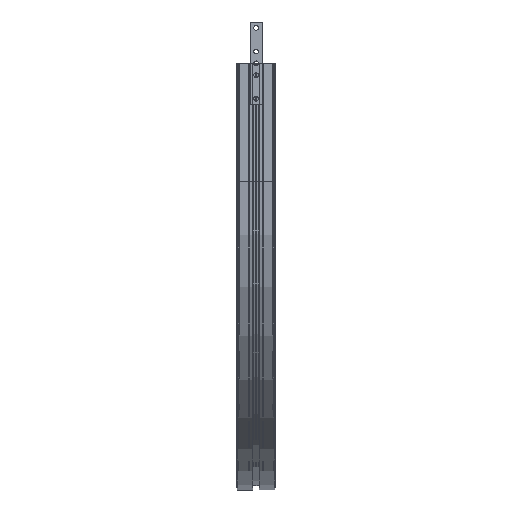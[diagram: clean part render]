
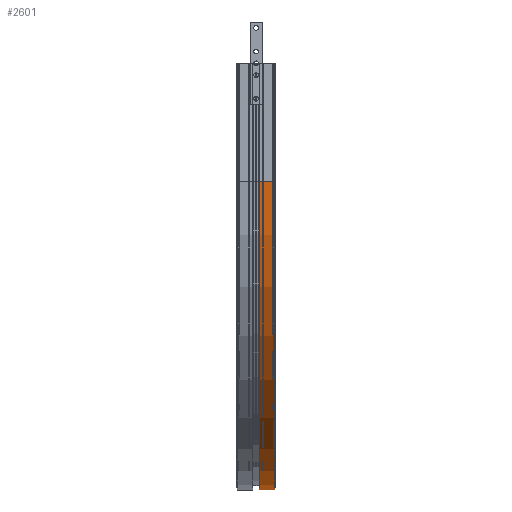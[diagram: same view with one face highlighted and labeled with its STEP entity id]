
A CAD part, left-side view. The second image highlights one B-rep face of the part: STEP entity #2601.
In plain terms, the highlighted cylindrical face has radius 522.5 mm (diameter 1045 mm), a partial arc.
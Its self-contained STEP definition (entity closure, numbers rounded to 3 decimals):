
#2601 = ADVANCED_FACE ( 'NONE', ( #10759 ), #10769, .T. ) ;
#3084 = CARTESIAN_POINT ( 'NONE',  ( 500., -32., -722.5 ) ) ;
#3085 = CARTESIAN_POINT ( 'NONE',  ( -22.5, -32., -200. ) ) ;
#3089 = CARTESIAN_POINT ( 'NONE',  ( 500., -5.5, -722.5 ) ) ;
#3090 = CARTESIAN_POINT ( 'NONE',  ( -22.5, -5.5, -200. ) ) ;
#4356 = CARTESIAN_POINT ( 'NONE',  ( -22.5, 0., -200. ) ) ;
#4357 = LINE ( 'NONE', #4356, #14961 ) ;
#4363 = CARTESIAN_POINT ( 'NONE',  ( 500., 0., -722.5 ) ) ;
#4367 = LINE ( 'NONE', #4363, #14964 ) ;
#4368 = DIRECTION ( 'NONE',  ( 0., 1., 0. ) ) ;
#4371 = CARTESIAN_POINT ( 'NONE',  ( 500., -32., -200. ) ) ;
#4372 = DIRECTION ( 'NONE',  ( 0., -1., 0. ) ) ;
#4373 = DIRECTION ( 'NONE',  ( 0., 0., -1. ) ) ;
#4374 = DIRECTION ( 'NONE',  ( 0., -1., 0. ) ) ;
#4376 = CARTESIAN_POINT ( 'NONE',  ( 500., -5.5, -200. ) ) ;
#4377 = DIRECTION ( 'NONE',  ( 0., -1., 0. ) ) ;
#4378 = DIRECTION ( 'NONE',  ( 0., 0., -1. ) ) ;
#7083 = EDGE_LOOP ( 'NONE', ( #8926, #8925, #8910, #8905 ) ) ;
#8905 = ORIENTED_EDGE ( 'NONE', *, *, #11388, .T. ) ;
#8910 = ORIENTED_EDGE ( 'NONE', *, *, #11389, .F. ) ;
#8925 = ORIENTED_EDGE ( 'NONE', *, *, #11390, .T. ) ;
#8926 = ORIENTED_EDGE ( 'NONE', *, *, #11391, .T. ) ;
#10758 = CARTESIAN_POINT ( 'NONE',  ( 500., 0., -200. ) ) ;
#10759 = FACE_OUTER_BOUND ( 'NONE', #7083, .T. ) ;
#10769 = CYLINDRICAL_SURFACE ( 'NONE', #14558, 522.5 ) ;
#10770 = DIRECTION ( 'NONE',  ( 0., -1., 0. ) ) ;
#10771 = DIRECTION ( 'NONE',  ( 0., 0., -1. ) ) ;
#11388 = EDGE_CURVE ( 'NONE', #14698, #14703, #4357, .T. ) ;
#11389 = EDGE_CURVE ( 'NONE', #14698, #14697, #14958, .T. ) ;
#11390 = EDGE_CURVE ( 'NONE', #14702, #14697, #4367, .T. ) ;
#11391 = EDGE_CURVE ( 'NONE', #14703, #14702, #14966, .T. ) ;
#14558 = AXIS2_PLACEMENT_3D ( 'NONE', #10758, #10770, #10771 ) ;
#14697 = VERTEX_POINT ( 'NONE', #3084 ) ;
#14698 = VERTEX_POINT ( 'NONE', #3085 ) ;
#14702 = VERTEX_POINT ( 'NONE', #3089 ) ;
#14703 = VERTEX_POINT ( 'NONE', #3090 ) ;
#14958 = CIRCLE ( 'NONE', #14965, 522.5 ) ;
#14961 = VECTOR ( 'NONE', #4368, 1000. ) ;
#14964 = VECTOR ( 'NONE', #4374, 1000. ) ;
#14965 = AXIS2_PLACEMENT_3D ( 'NONE', #4371, #4372, #4373 ) ;
#14966 = CIRCLE ( 'NONE', #14968, 522.5 ) ;
#14968 = AXIS2_PLACEMENT_3D ( 'NONE', #4376, #4377, #4378 ) ;
